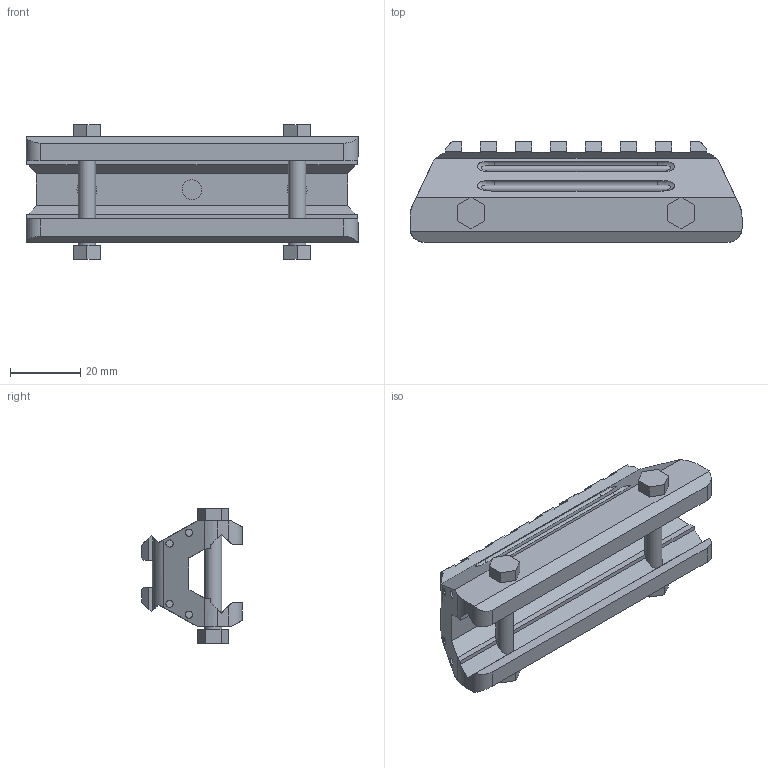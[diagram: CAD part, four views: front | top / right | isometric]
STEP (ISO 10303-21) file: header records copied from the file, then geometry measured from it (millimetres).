
FILE_DESCRIPTION(/* description */ (''),/* implementation_level */ '2;1');
FILE_NAME(/* name */ 'D:/Pew Pews/FGC-9_MkII_Stingray_Edition/Stingray Edition/.step files/6 - Accessories/Sight Riser.step',/* time_stamp */ '2022-05-12T11:09:09-06:00',/* author */ (''),/* organization */ (''),/* preprocessor_version */ 'ST-DEVELOPER v18.1',/* originating_system */ 'Autodesk Translation Framework v10.10.0.1391',/* authorisation */ '');
FILE_SCHEMA (('AUTOMOTIVE_DESIGN { 1 0 10303 214 3 1 1 }'));
Length unit declared in the file: millimetre
Products named in the file (1): Sight riser
Bounding box: 94.75 x 28.68 x 38.5 mm (x, y, z)
Volume: 40460.9 mm3; surface area: 19557.1 mm2
Topology: 7 solids, 7 shells, 225 faces, 627 edges, 419 vertices
Faces by surface type: plane 185, cylinder 32, torus 8
Full cylindrical faces by diameter (mm): 2.05 x8, 4.97 x2, 5.2 x4
Entity records: 7596 total; most frequent: CARTESIAN_POINT 1624, ORIENTED_EDGE 1254, DIRECTION 1178, EDGE_CURVE 627, LINE 496, VECTOR 496, VERTEX_POINT 419, AXIS2_PLACEMENT_3D 341
